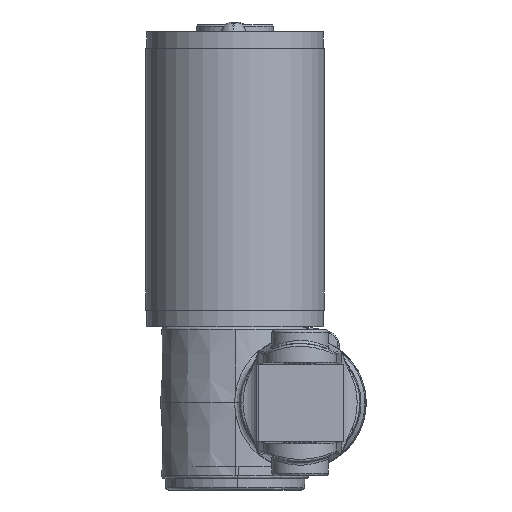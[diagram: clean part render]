
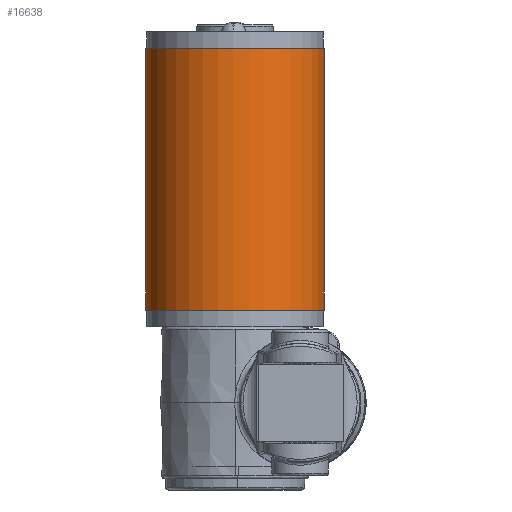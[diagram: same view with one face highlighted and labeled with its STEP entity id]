
A CAD part, front view. The second image highlights one B-rep face of the part: STEP entity #16638.
In plain terms, the highlighted cylindrical face has radius 31.75 mm (diameter 63.5 mm), a partial arc.
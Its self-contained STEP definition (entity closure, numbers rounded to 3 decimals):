
#510 = CARTESIAN_POINT ( 'NONE',  ( -23.13, 65., 33. ) ) ;
#530 = DIRECTION ( 'NONE',  ( 0., 0., 1. ) ) ;
#532 = DIRECTION ( 'NONE',  ( 1., -0.019, 0. ) ) ;
#772 = LINE ( 'NONE', #774, #17740 ) ;
#774 = CARTESIAN_POINT ( 'NONE',  ( 8.614, 64.391, 163.517 ) ) ;
#776 = DIRECTION ( 'NONE',  ( 0., 0., 1. ) ) ;
#796 = LINE ( 'NONE', #798, #17742 ) ;
#798 = CARTESIAN_POINT ( 'NONE',  ( -54.874, 65.609, 163.517 ) ) ;
#800 = DIRECTION ( 'NONE',  ( 0., 0., 1. ) ) ;
#1893 = ORIENTED_EDGE ( 'NONE', *, *, #15568, .F. ) ;
#1903 = ORIENTED_EDGE ( 'NONE', *, *, #13337, .T. ) ;
#1907 = ORIENTED_EDGE ( 'NONE', *, *, #15524, .T. ) ;
#1909 = ORIENTED_EDGE ( 'NONE', *, *, #15564, .T. ) ;
#3558 = CARTESIAN_POINT ( 'NONE',  ( 8.614, 64.391, 33. ) ) ;
#3559 = CARTESIAN_POINT ( 'NONE',  ( -54.874, 65.609, 33. ) ) ;
#3560 = CARTESIAN_POINT ( 'NONE',  ( -54.874, 65.609, 126. ) ) ;
#3561 = CARTESIAN_POINT ( 'NONE',  ( 8.614, 64.391, 126. ) ) ;
#4349 = CARTESIAN_POINT ( 'NONE',  ( -23.13, 65., 163.517 ) ) ;
#4350 = DIRECTION ( 'NONE',  ( 0., 0., 1. ) ) ;
#4351 = DIRECTION ( 'NONE',  ( 1., -0.019, 0. ) ) ;
#5362 = FACE_OUTER_BOUND ( 'NONE', #12542, .T. ) ;
#5371 = AXIS2_PLACEMENT_3D ( 'NONE', #4349, #4350, #4351 ) ;
#5373 = CYLINDRICAL_SURFACE ( 'NONE', #5371, 31.75 ) ;
#5936 = AXIS2_PLACEMENT_3D ( 'NONE', #510, #530, #532 ) ;
#7201 = VERTEX_POINT ( 'NONE', #3558 ) ;
#7202 = VERTEX_POINT ( 'NONE', #3559 ) ;
#7203 = VERTEX_POINT ( 'NONE', #3560 ) ;
#7204 = VERTEX_POINT ( 'NONE', #3561 ) ;
#12542 = EDGE_LOOP ( 'NONE', ( #1893, #1907, #1909, #1903 ) ) ;
#13254 = AXIS2_PLACEMENT_3D ( 'NONE', #18730, #18731, #18732 ) ;
#13337 = EDGE_CURVE ( 'NONE', #7204, #7203, #13416, .T. ) ;
#13416 = CIRCLE ( 'NONE', #13254, 31.75 ) ;
#15524 = EDGE_CURVE ( 'NONE', #7202, #7201, #16073, .T. ) ;
#15564 = EDGE_CURVE ( 'NONE', #7201, #7204, #772, .T. ) ;
#15568 = EDGE_CURVE ( 'NONE', #7202, #7203, #796, .T. ) ;
#16073 = CIRCLE ( 'NONE', #5936, 31.75 ) ;
#16638 = ADVANCED_FACE ( 'NONE', ( #5362 ), #5373, .T. ) ;
#17740 = VECTOR ( 'NONE', #776, 1000. ) ;
#17742 = VECTOR ( 'NONE', #800, 1000. ) ;
#18730 = CARTESIAN_POINT ( 'NONE',  ( -23.13, 65., 126. ) ) ;
#18731 = DIRECTION ( 'NONE',  ( 0., 0., -1. ) ) ;
#18732 = DIRECTION ( 'NONE',  ( 1., -0.019, 0. ) ) ;
